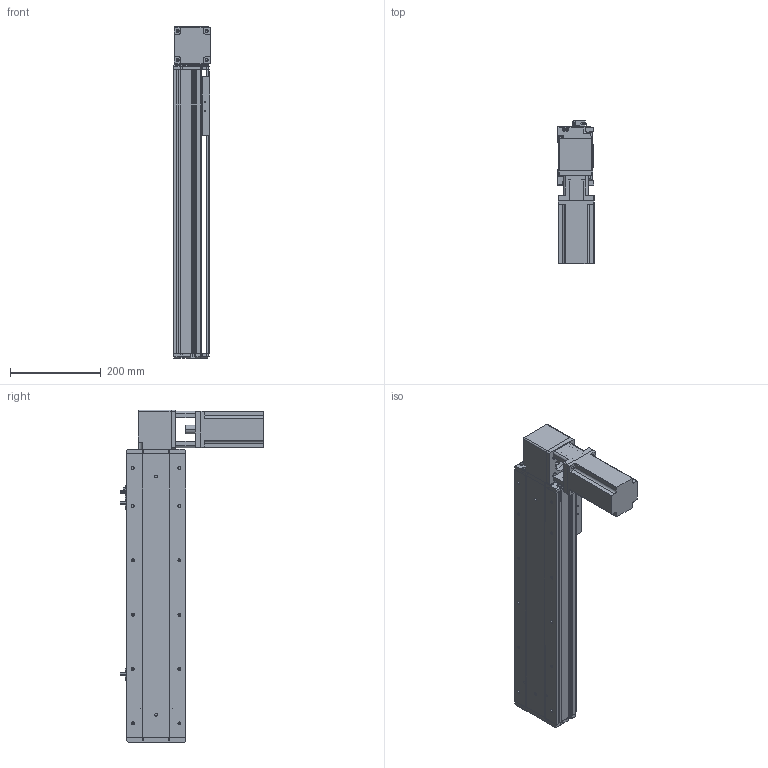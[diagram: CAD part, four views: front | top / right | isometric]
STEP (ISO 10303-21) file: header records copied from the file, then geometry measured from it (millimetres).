
FILE_DESCRIPTION (( 'STEP AP214' ), '1' );
FILE_NAME ('KSD130B-S400-MLT-CM.STEP', '2019-09-23T02:11:49', ( '微软用户' ), ( '微软中国' ), 'SwSTEP 2.0', 'SolidWorks 2014', '' );
FILE_SCHEMA (( 'AUTOMOTIVE_DESIGN' ));
Length unit declared in the file: millimetre
Products named in the file (12): 台达ECMA－C20807AS伺服电机; 130宽马达安装板1-带电机座750W（1）; 覜茼え100遵圉猾敕; U倰嫖萇EEㄜSX672; 130宽安装板同步带带电机座750W; 130宽盖板半封闭同步带-400行程; 130宽马达安装板同步带左-改; 130宽马达安装板同步带半封闭; 130宽同步带安装座半封闭; 130宽端盖同步带半封闭; 130宽底板半封闭同步带-400行程; KSD130B-S400-MLT-CM
Assembly tree (13 placements, depth 2):
  KSD130B-S400-MLT-CM
    130宽底板半封闭同步带-400行程
    130宽端盖同步带半封闭
    130宽同步带安装座半封闭
    130宽马达安装板同步带半封闭
    130宽马达安装板同步带左-改
    130宽盖板半封闭同步带-400行程
    130宽安装板同步带带电机座750W
    U倰嫖萇EEㄜSX672  x3
    覜茼え100遵圉猾敕
    130宽马达安装板1-带电机座750W（1）
    台达ECMA－C20807AS伺服电机
Bounding box: 81 x 316 x 733 mm (x, y, z)
Volume: 3344469.7 mm3; surface area: 816168.8 mm2
Topology: 14 solids, 14 shells, 1379 faces, 3872 edges, 2491 vertices
Faces by surface type: cylinder 649, plane 589, cone 141
Entity records: 43955 total; most frequent: CARTESIAN_POINT 7857, DIRECTION 6750, ORIENTED_EDGE 6460, EDGE_CURVE 3230, AXIS2_PLACEMENT_3D 2456, VERTEX_POINT 2115, VECTOR 1838, LINE 1838
